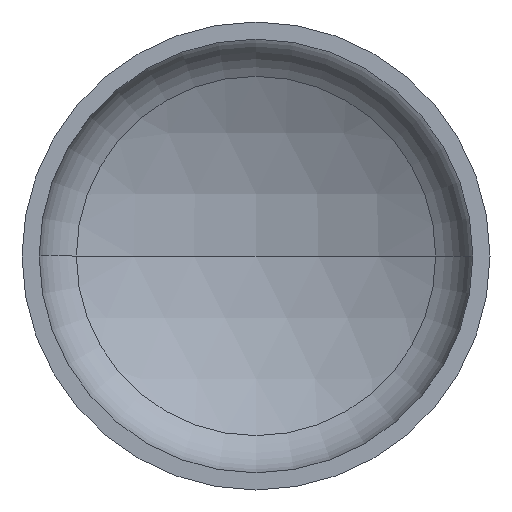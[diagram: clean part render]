
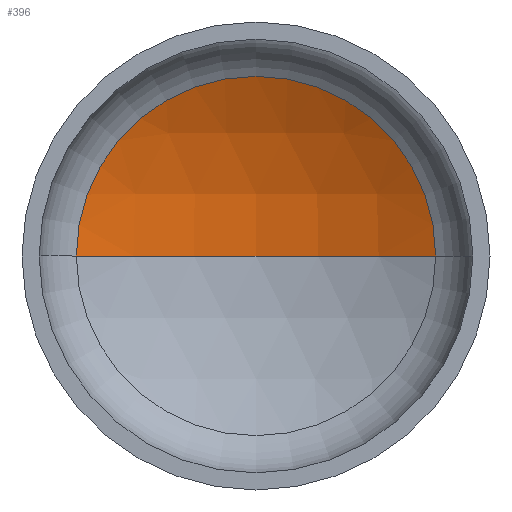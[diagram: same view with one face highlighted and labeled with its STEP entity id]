
A CAD part, front view. The second image highlights one B-rep face of the part: STEP entity #396.
In plain terms, the highlighted spherical face has radius 1440 mm.
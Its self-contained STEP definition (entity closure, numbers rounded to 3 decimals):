
#2 = ORIENTED_EDGE ( 'NONE', *, *, #95, .T. ) ;
#10 = DIRECTION ( 'NONE',  ( -1., 0., 0. ) ) ;
#11 = DIRECTION ( 'NONE',  ( 1., 0., 0. ) ) ;
#21 = EDGE_LOOP ( 'NONE', ( #59, #2, #162 ) ) ;
#22 = DIRECTION ( 'NONE',  ( 0., 0., 1. ) ) ;
#28 = CARTESIAN_POINT ( 'NONE',  ( 0., -902.127, 0. ) ) ;
#40 = AXIS2_PLACEMENT_3D ( 'NONE', #28, #22, #11 ) ;
#45 = AXIS2_PLACEMENT_3D ( 'NONE', #402, #342, #10 ) ;
#47 = AXIS2_PLACEMENT_3D ( 'NONE', #214, #191, #193 ) ;
#55 = VERTEX_POINT ( 'NONE', #362 ) ;
#59 = ORIENTED_EDGE ( 'NONE', *, *, #99, .F. ) ;
#70 = VERTEX_POINT ( 'NONE', #259 ) ;
#94 = EDGE_CURVE ( 'NONE', #116, #55, #156, .T. ) ;
#95 = EDGE_CURVE ( 'NONE', #70, #116, #405, .T. ) ;
#99 = EDGE_CURVE ( 'NONE', #70, #55, #282, .T. ) ;
#116 = VERTEX_POINT ( 'NONE', #168 ) ;
#152 = FACE_OUTER_BOUND ( 'NONE', #21, .T. ) ;
#153 = DIRECTION ( 'NONE',  ( -1., 0., 0. ) ) ;
#156 = CIRCLE ( 'NONE', #47, 690.953 ) ;
#162 = ORIENTED_EDGE ( 'NONE', *, *, #94, .T. ) ;
#168 = CARTESIAN_POINT ( 'NONE',  ( 690.953, 361.275, 0. ) ) ;
#172 = DIRECTION ( 'NONE',  ( 0., 0., -1. ) ) ;
#191 = DIRECTION ( 'NONE',  ( 0., -1., 0. ) ) ;
#193 = DIRECTION ( 'NONE',  ( 1., 0., 0. ) ) ;
#197 = CARTESIAN_POINT ( 'NONE',  ( 0., -902.127, 0. ) ) ;
#214 = CARTESIAN_POINT ( 'NONE',  ( 0., 361.275, 0. ) ) ;
#259 = CARTESIAN_POINT ( 'NONE',  ( 0., 537.873, 0. ) ) ;
#282 = CIRCLE ( 'NONE', #40, 1440. ) ;
#322 = AXIS2_PLACEMENT_3D ( 'NONE', #197, #172, #153 ) ;
#342 = DIRECTION ( 'NONE',  ( 0., 0., -1. ) ) ;
#354 = SPHERICAL_SURFACE ( 'NONE', #322, 1440. ) ;
#362 = CARTESIAN_POINT ( 'NONE',  ( -690.953, 361.275, 0. ) ) ;
#396 = ADVANCED_FACE ( 'NONE', ( #152 ), #354, .F. ) ;
#402 = CARTESIAN_POINT ( 'NONE',  ( 0., -902.127, 0. ) ) ;
#405 = CIRCLE ( 'NONE', #45, 1440. ) ;
